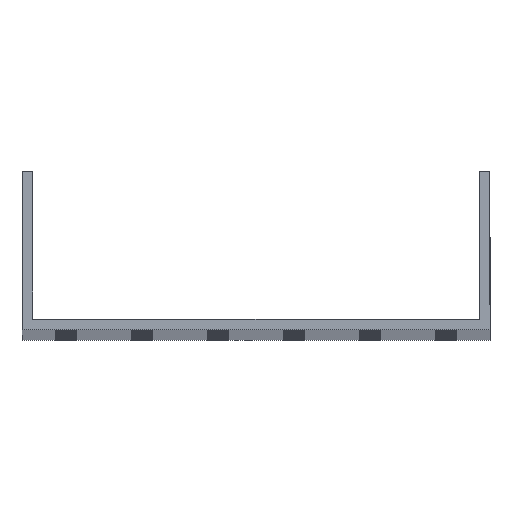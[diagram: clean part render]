
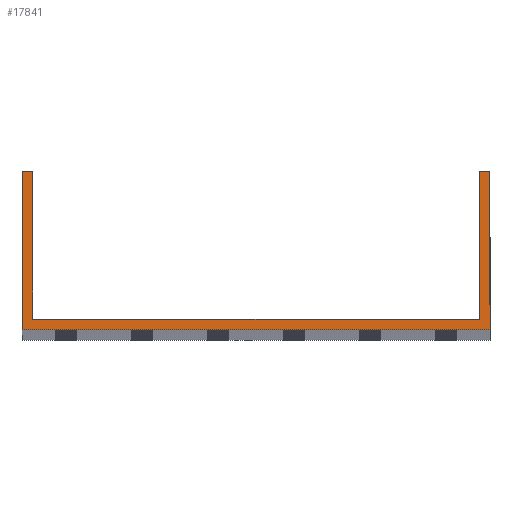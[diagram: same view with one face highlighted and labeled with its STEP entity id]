
A CAD part, top view. The second image highlights one B-rep face of the part: STEP entity #17841.
In plain terms, the highlighted planar face has unit normal (0, 0, 1).
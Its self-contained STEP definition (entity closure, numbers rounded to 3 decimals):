
#268 = VERTEX_POINT ( 'NONE', #768 ) ;
#768 = CARTESIAN_POINT ( 'NONE',  ( -73.5, 3.5, 1000. ) ) ;
#1889 = VECTOR ( 'NONE', #28659, 1000. ) ;
#2744 = ORIENTED_EDGE ( 'NONE', *, *, #37670, .F. ) ;
#4230 = CARTESIAN_POINT ( 'NONE',  ( -77., 3.5, 1000. ) ) ;
#4616 = CARTESIAN_POINT ( 'NONE',  ( 73.5, 52., 1000. ) ) ;
#4619 = VERTEX_POINT ( 'NONE', #27193 ) ;
#5163 = ORIENTED_EDGE ( 'NONE', *, *, #33376, .T. ) ;
#7052 = LINE ( 'NONE', #47638, #12682 ) ;
#9233 = EDGE_LOOP ( 'NONE', ( #10864, #34573, #5163, #10406, #50918, #21516, #2744, #16651 ) ) ;
#10406 = ORIENTED_EDGE ( 'NONE', *, *, #44985, .T. ) ;
#10692 = DIRECTION ( 'NONE',  ( -1., 0., 0. ) ) ;
#10864 = ORIENTED_EDGE ( 'NONE', *, *, #32989, .F. ) ;
#12682 = VECTOR ( 'NONE', #39147, 1000. ) ;
#14343 = EDGE_CURVE ( 'NONE', #22715, #27353, #7052, .T. ) ;
#15359 = LINE ( 'NONE', #35512, #35354 ) ;
#15758 = DIRECTION ( 'NONE',  ( 0., -1., 0. ) ) ;
#15950 = LINE ( 'NONE', #31619, #1889 ) ;
#16651 = ORIENTED_EDGE ( 'NONE', *, *, #22620, .F. ) ;
#16874 = VERTEX_POINT ( 'NONE', #42383 ) ;
#17841 = ADVANCED_FACE ( 'NONE', ( #39782 ), #28375, .T. ) ;
#18226 = VERTEX_POINT ( 'NONE', #42922 ) ;
#18629 = AXIS2_PLACEMENT_3D ( 'NONE', #20138, #35812, #27317 ) ;
#19628 = CARTESIAN_POINT ( 'NONE',  ( 77., 52., 1000. ) ) ;
#20138 = CARTESIAN_POINT ( 'NONE',  ( 0., 0., 1000. ) ) ;
#20837 = EDGE_CURVE ( 'NONE', #18226, #16874, #27119, .T. ) ;
#21389 = EDGE_CURVE ( 'NONE', #22517, #18226, #36792, .T. ) ;
#21516 = ORIENTED_EDGE ( 'NONE', *, *, #20837, .T. ) ;
#22517 = VERTEX_POINT ( 'NONE', #47772 ) ;
#22620 = EDGE_CURVE ( 'NONE', #268, #51669, #28386, .T. ) ;
#22715 = VERTEX_POINT ( 'NONE', #37392 ) ;
#24312 = CARTESIAN_POINT ( 'NONE',  ( -77., 52., 1000. ) ) ;
#27119 = LINE ( 'NONE', #27654, #41021 ) ;
#27193 = CARTESIAN_POINT ( 'NONE',  ( -77., 0., 1000. ) ) ;
#27317 = DIRECTION ( 'NONE',  ( 1., 0., 0. ) ) ;
#27353 = VERTEX_POINT ( 'NONE', #24312 ) ;
#27654 = CARTESIAN_POINT ( 'NONE',  ( -77., 52., 1000. ) ) ;
#28375 = PLANE ( 'NONE',  #18629 ) ;
#28386 = LINE ( 'NONE', #4230, #38882 ) ;
#28442 = VECTOR ( 'NONE', #31103, 1000. ) ;
#28481 = CARTESIAN_POINT ( 'NONE',  ( -73.5, 52., 1000. ) ) ;
#28659 = DIRECTION ( 'NONE',  ( 0., -1., 0. ) ) ;
#31103 = DIRECTION ( 'NONE',  ( 0., 1., 0. ) ) ;
#31619 = CARTESIAN_POINT ( 'NONE',  ( -77., 52., 1000. ) ) ;
#32989 = EDGE_CURVE ( 'NONE', #22715, #268, #52118, .T. ) ;
#33376 = EDGE_CURVE ( 'NONE', #27353, #4619, #15950, .T. ) ;
#34573 = ORIENTED_EDGE ( 'NONE', *, *, #14343, .T. ) ;
#35354 = VECTOR ( 'NONE', #39761, 1000. ) ;
#35512 = CARTESIAN_POINT ( 'NONE',  ( -77., 0., 1000. ) ) ;
#35812 = DIRECTION ( 'NONE',  ( 0., 0., 1. ) ) ;
#36792 = LINE ( 'NONE', #19628, #41896 ) ;
#37392 = CARTESIAN_POINT ( 'NONE',  ( -73.5, 52., 1000. ) ) ;
#37670 = EDGE_CURVE ( 'NONE', #51669, #16874, #40968, .T. ) ;
#38882 = VECTOR ( 'NONE', #48805, 1000. ) ;
#39147 = DIRECTION ( 'NONE',  ( -1., 0., 0. ) ) ;
#39761 = DIRECTION ( 'NONE',  ( 1., 0., 0. ) ) ;
#39782 = FACE_OUTER_BOUND ( 'NONE', #9233, .T. ) ;
#39789 = DIRECTION ( 'NONE',  ( 0., 1., 0. ) ) ;
#40968 = LINE ( 'NONE', #4616, #28442 ) ;
#41021 = VECTOR ( 'NONE', #10692, 1000. ) ;
#41783 = VECTOR ( 'NONE', #15758, 1000. ) ;
#41896 = VECTOR ( 'NONE', #39789, 1000. ) ;
#42383 = CARTESIAN_POINT ( 'NONE',  ( 73.5, 52., 1000. ) ) ;
#42922 = CARTESIAN_POINT ( 'NONE',  ( 77., 52., 1000. ) ) ;
#43144 = CARTESIAN_POINT ( 'NONE',  ( 73.5, 3.5, 1000. ) ) ;
#44985 = EDGE_CURVE ( 'NONE', #4619, #22517, #15359, .T. ) ;
#47638 = CARTESIAN_POINT ( 'NONE',  ( -77., 52., 1000. ) ) ;
#47772 = CARTESIAN_POINT ( 'NONE',  ( 77., 0., 1000. ) ) ;
#48805 = DIRECTION ( 'NONE',  ( 1., 0., 0. ) ) ;
#50918 = ORIENTED_EDGE ( 'NONE', *, *, #21389, .T. ) ;
#51669 = VERTEX_POINT ( 'NONE', #43144 ) ;
#52118 = LINE ( 'NONE', #28481, #41783 ) ;
